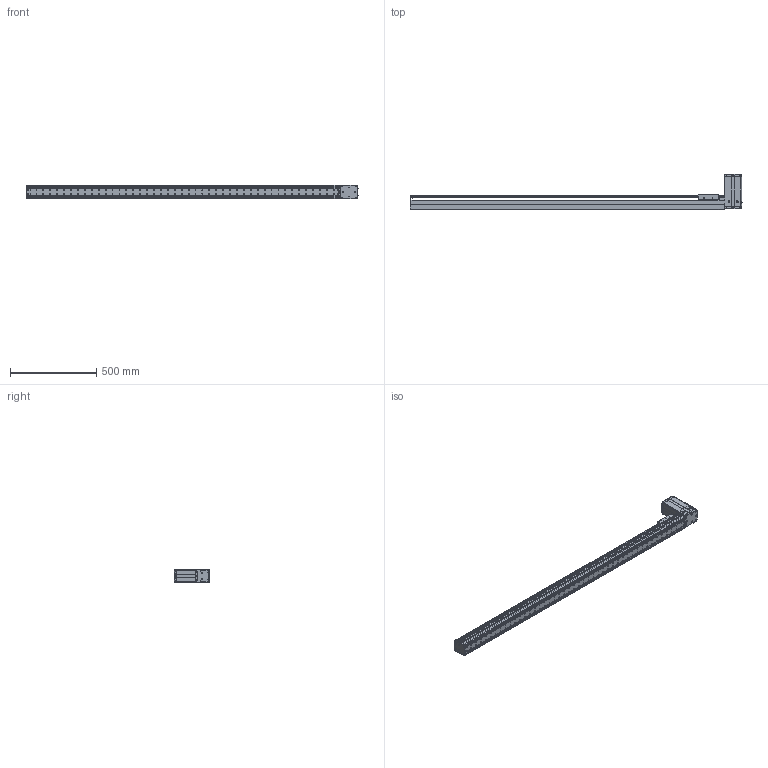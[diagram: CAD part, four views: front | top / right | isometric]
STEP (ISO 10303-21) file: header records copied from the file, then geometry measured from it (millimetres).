
FILE_DESCRIPTION((''),'2;1');
FILE_NAME('BE10_-BT-M_N-G0_IGS_PRT','2017-06-18T',(' '),(''),'PRO/ENGINEER BY PARAMETRIC TECHNOLOGY CORPORATION, 2015030','PRO/ENGINEER BY PARAMETRIC TECHNOLOGY CORPORATION, 2015030','');
FILE_SCHEMA(('CONFIG_CONTROL_DESIGN'));
Products named in the file (1): BE10_-BT-M_N-G0_IGS_PRT
Bounding box: 1920.8 x 204.72 x 78 mm (x, y, z)
Volume: 2640363.8 mm3; surface area: 1785665.7 mm2
Topology: 2 solids, 177 shells, 2339 faces, 6396 edges, 4245 vertices
Faces by surface type: cylinder 1096, plane 1080, cone 107, sphere 28, torus 25, bspline 3
Entity records: 76534 total; most frequent: CARTESIAN_POINT 15772, DIRECTION 12938, ORIENTED_EDGE 12040, EDGE_CURVE 6334, AXIS2_PLACEMENT_3D 4730, VERTEX_POINT 4245, VECTOR 3478, LINE 3478
